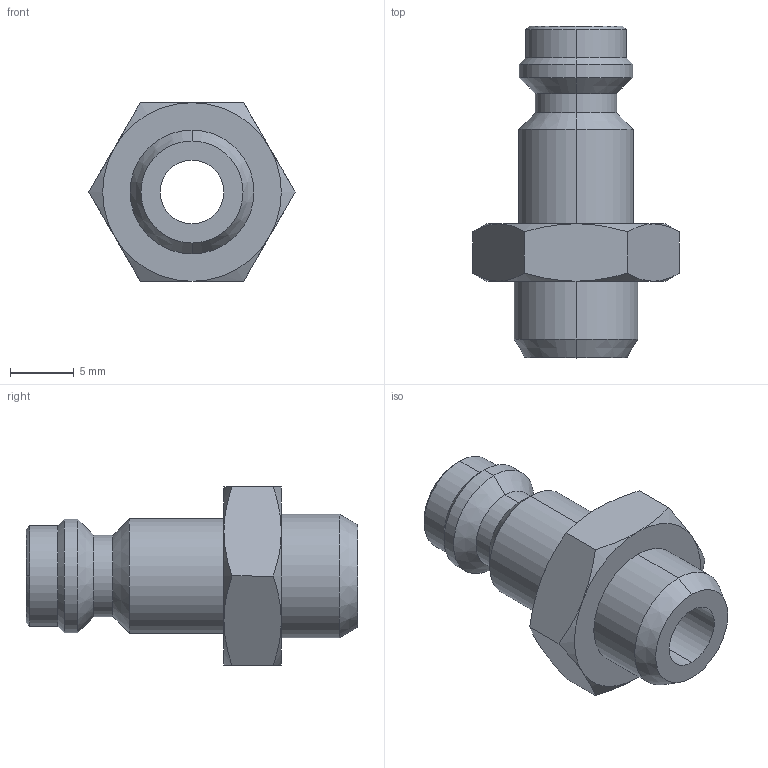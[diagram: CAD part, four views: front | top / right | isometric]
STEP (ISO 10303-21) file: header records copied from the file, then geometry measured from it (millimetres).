
FILE_DESCRIPTION (( 'STEP AP214' ), '1' );
FILE_NAME ('0021100010200A.STEP', '2012-11-19T17:13:44', ( '' ), ( '' ), 'SwSTEP 2.0', 'SolidWorks 2012', '' );
FILE_SCHEMA (( 'AUTOMOTIVE_DESIGN' ));
Length unit declared in the file: millimetre
Products named in the file (1): 0021100010200A
Bounding box: 16.17 x 26 x 14 mm (x, y, z)
Volume: 1525.4 mm3; surface area: 1489.9 mm2
Topology: 1 solids, 1 shells, 44 faces, 94 edges, 54 vertices
Faces by surface type: cone 22, cylinder 12, plane 10
Entity records: 1304 total; most frequent: CARTESIAN_POINT 313, DIRECTION 202, ORIENTED_EDGE 188, EDGE_CURVE 94, AXIS2_PLACEMENT_3D 87, VERTEX_POINT 54, EDGE_LOOP 48, ADVANCED_FACE 44
